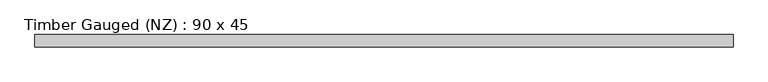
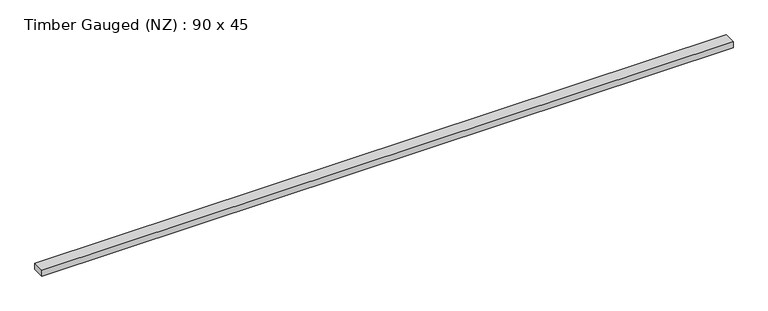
"""IFC4 building model written with IfcOpenShell, lengths in millimetres: beam geometry, Timber Gauged (NZ) : 90 x 45."""

from ifc_helpers import new_model, si_unit, frame, origin, place, context, project, spatial, polyline, outline, extrude, source, transform, mapped, element, save


def timber_gauged_nz_90_x_45_65e6c5fe(model_context):
    return source(origin(), model_context, "Body", "SweptSolid", [
        extrude(outline(polyline([(2550.0, 45.0), (2550.0, -45.0), (-2550.0, -45.0), (-2550.0, 45.0), (2550.0, 45.0)])), frame((0.0, 0.0, -22.5), z_axis=(0.0, 0.0, 1.0), x_axis=(1.0, 0.0, 0.0)), (0.0, 0.0, 1.0), 45.0),
    ])


if __name__ == "__main__":
    model = new_model("IFC4")
    model_context = context("Model", 3, world=origin())
    ifc_project = project(units=[si_unit("LENGTHUNIT", "METRE", prefix="MILLI")], contexts=[model_context])
    site = spatial("IfcSite", under=ifc_project)
    building = spatial("IfcBuilding", under=site)
    placement = place(None, origin())
    timber_gauged_nz_90_x_45_shape = timber_gauged_nz_90_x_45_65e6c5fe(model_context)
    element("IfcBeam", 1, ObjectType="Timber Gauged (NZ) : 90 x 45", at=placement, inside=building, context=model_context, shape_type="MappedRepresentation", body=[
        mapped(timber_gauged_nz_90_x_45_shape, transform((0.0, 0.0, 0.0), x_axis=(1.0, 0.0, 0.0), y_axis=(0.0, 1.0, 0.0), z_axis=(0.0, 0.0, 1.0))),
    ])
    save(model, "model.ifc")
